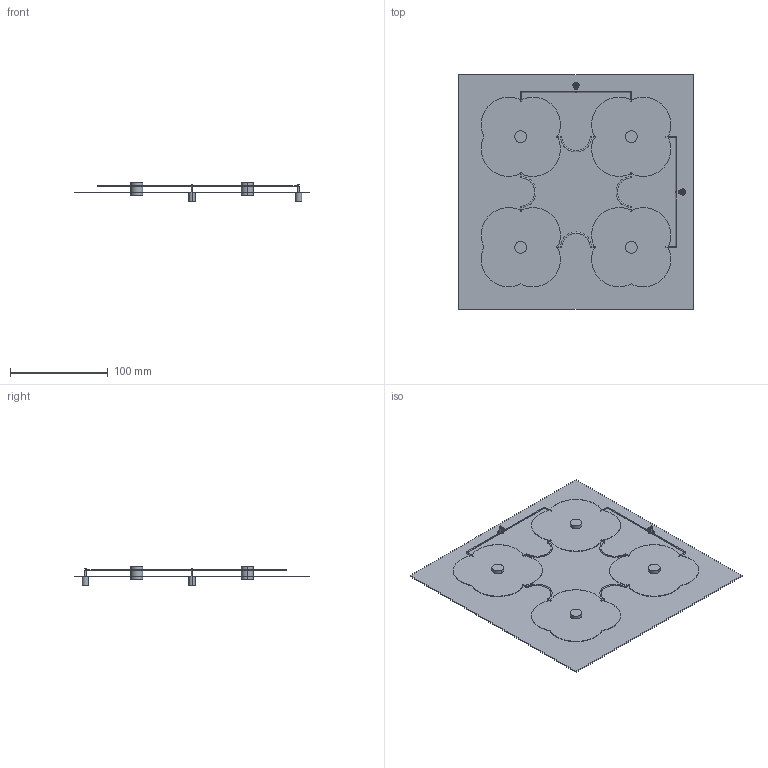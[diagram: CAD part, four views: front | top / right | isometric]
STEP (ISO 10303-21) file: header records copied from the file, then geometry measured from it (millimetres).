
FILE_DESCRIPTION(('STEP AP214'),'1');
FILE_NAME('C:/Documents and Settings/Owner/Desktop/kass (2)/vman2x2.stp','2015-02-15T15:41:24',('Owner'),(' '),'Spatial InterOp 3D','CST ACIS InterOp Converter 2009',' ');
FILE_SCHEMA(('automotive_design'));
Length unit declared in the file: millimetre
Products named in the file (25): component1|solid1; component1|solid1_1; component1|solid1_2; component1|solid1_3; component1|solid2; component1|solid2_1; component1|solid2_2; component1|solid2_3; component1|solid3; component1|solid3_1; component1|solid4; component1|solid5; component1|solid6; component1|solid7; component1|solid5_1; component1|solid6_1; component1|solid7_1; component1|solid8; component1|solid8_1; component1|solid8_2; component1|solid8_3; component1|solid9; component1|solid9_1; component1|solid9_2; component1|solid9_1_1
Bounding box: 240 x 240 x 20 mm (x, y, z)
Volume: 76055.6 mm3; surface area: 167626 mm2
Topology: 25 solids, 25 shells, 198 faces, 1104 edges, 956 vertices
Faces by surface type: cylinder 112, plane 54, bspline 24, torus 8
Entity records: 20534 total; most frequent: CARTESIAN_POINT 10567, ORIENTED_EDGE 2208, EDGE_CURVE 1104, DIRECTION 1018, VERTEX_POINT 956, B_SPLINE_CURVE_WITH_KNOTS 732, AXIS2_PLACEMENT_3D 447, CIRCLE 248
